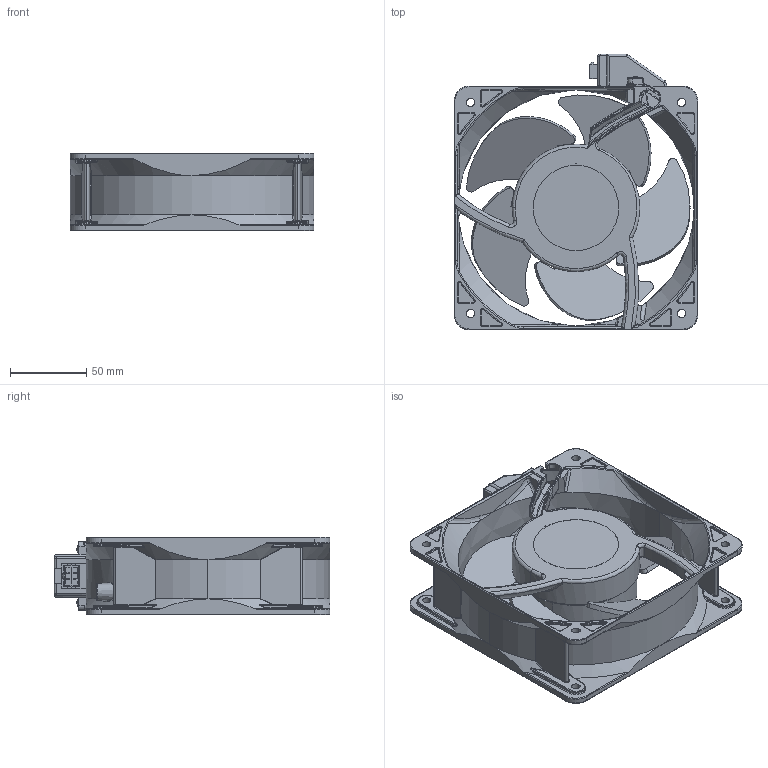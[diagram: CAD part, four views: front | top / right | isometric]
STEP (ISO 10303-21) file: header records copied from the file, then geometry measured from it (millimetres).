
FILE_DESCRIPTION (( 'STEP AP203' ), '1' );
FILE_NAME ('16051ADW_RIBLESS_TB.STEP', '2022-11-30T08:27:28', ( '' ), ( '' ), 'SwSTEP 2.0', 'SolidWorks 2019', '' );
FILE_SCHEMA (( 'CONFIG_CONTROL_DESIGN' ));
Length unit declared in the file: millimetre
Products named in the file (1): 16051ADW_RIBLESS_TB
Bounding box: 160 x 181 x 51 mm (x, y, z)
Volume: 402706 mm3; surface area: 142923.9 mm2
Topology: 1 solids, 3 shells, 2037 faces, 5111 edges, 3006 vertices
Faces by surface type: cylinder 688, bspline 585, plane 556, cone 79, torus 71, sphere 58
Entity records: 82403 total; most frequent: CARTESIAN_POINT 38862, ORIENTED_EDGE 10022, DIRECTION 7983, EDGE_CURVE 5011, AXIS2_PLACEMENT_3D 3005, VERTEX_POINT 3003, EDGE_LOOP 2098, FACE_OUTER_BOUND 2037
